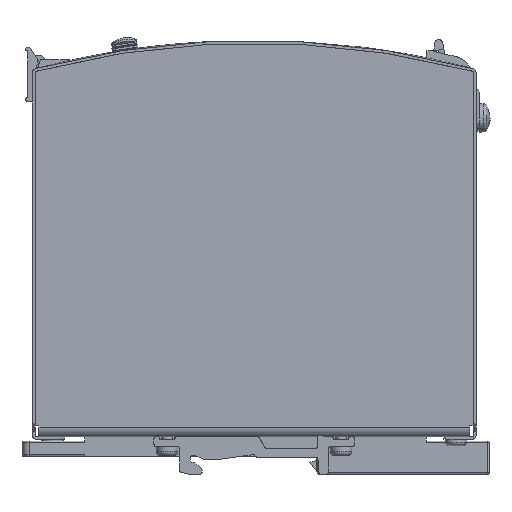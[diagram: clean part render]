
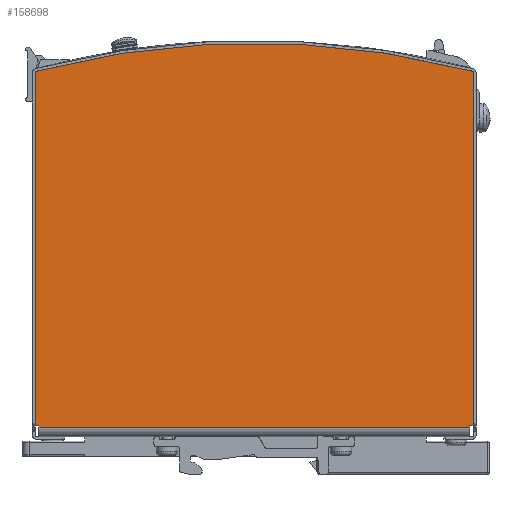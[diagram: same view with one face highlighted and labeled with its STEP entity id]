
A CAD part, front view. The second image highlights one B-rep face of the part: STEP entity #158698.
In plain terms, the highlighted planar face has unit normal (0, -1, 0).
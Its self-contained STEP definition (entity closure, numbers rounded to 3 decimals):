
#158066=CARTESIAN_POINT('',(60.15,-20.,3.));
#158067=VERTEX_POINT('',#158066);
#158074=CARTESIAN_POINT('',(60.15,-20.0,2.5));
#158075=VERTEX_POINT('',#158074);
#158076=CARTESIAN_POINT('',(60.15,-20.0,3.));
#158077=DIRECTION('',(0.0,0.0,-1.0));
#158078=VECTOR('',#158077,0.5);
#158079=LINE('',#158076,#158078);
#158080=EDGE_CURVE('',#158067,#158075,#158079,.T.);
#158223=CARTESIAN_POINT('',(-60.15,-20.0,2.5));
#158224=VERTEX_POINT('',#158223);
#158234=CARTESIAN_POINT('',(-60.15,-20.,3.));
#158235=VERTEX_POINT('',#158234);
#158236=CARTESIAN_POINT('',(-60.15,-20.0,2.5));
#158237=DIRECTION('',(0.0,0.0,1.0));
#158238=VECTOR('',#158237,0.5);
#158239=LINE('',#158236,#158238);
#158240=EDGE_CURVE('',#158224,#158235,#158239,.T.);
#158574=CARTESIAN_POINT('',(61.15,-20.,3.));
#158575=VERTEX_POINT('',#158574);
#158582=CARTESIAN_POINT('',(61.15,-20.,3.));
#158583=DIRECTION('',(-1.0,0.0,0.0));
#158584=VECTOR('',#158583,1.0);
#158585=LINE('',#158582,#158584);
#158586=EDGE_CURVE('',#158575,#158067,#158585,.T.);
#158598=CARTESIAN_POINT('',(60.15,-20.0,2.5));
#158599=DIRECTION('',(-1.0,0.0,0.0));
#158600=VECTOR('',#158599,120.3);
#158601=LINE('',#158598,#158600);
#158602=EDGE_CURVE('',#158075,#158224,#158601,.T.);
#158656=CARTESIAN_POINT('',(61.15,-20.0,1.5));
#158657=DIRECTION('',(0.0,1.0,0.0));
#158658=DIRECTION('',(0.0,0.0,1.0));
#158659=AXIS2_PLACEMENT_3D('',#158656,#158657,#158658);
#158660=PLANE('',#158659);
#158661=ORIENTED_EDGE('',*,*,#158586,.F.);
#158662=CARTESIAN_POINT('',(61.15,-20.,102.079));
#158663=VERTEX_POINT('',#158662);
#158664=CARTESIAN_POINT('',(61.15,-20.,3.));
#158665=DIRECTION('',(0.0,0.0,1.0));
#158666=VECTOR('',#158665,99.079);
#158667=LINE('',#158664,#158666);
#158668=EDGE_CURVE('',#158575,#158663,#158667,.T.);
#158669=ORIENTED_EDGE('',*,*,#158668,.T.);
#158670=CARTESIAN_POINT('',(-61.15,-20.,102.079));
#158671=VERTEX_POINT('',#158670);
#158672=CARTESIAN_POINT('',(0.,-20.,-130.0));
#158673=DIRECTION('',(0.0,1.0,0.0));
#158674=DIRECTION('',(0.0,0.0,-1.0));
#158675=AXIS2_PLACEMENT_3D('',#158672,#158673,#158674);
#158676=CIRCLE('',#158675,240.0);
#158677=EDGE_CURVE('',#158671,#158663,#158676,.T.);
#158678=ORIENTED_EDGE('',*,*,#158677,.F.);
#158679=CARTESIAN_POINT('',(-61.15,-20.,3.));
#158680=VERTEX_POINT('',#158679);
#158681=CARTESIAN_POINT('',(-61.15,-20.,102.079));
#158682=DIRECTION('',(0.0,0.0,-1.0));
#158683=VECTOR('',#158682,99.079);
#158684=LINE('',#158681,#158683);
#158685=EDGE_CURVE('',#158671,#158680,#158684,.T.);
#158686=ORIENTED_EDGE('',*,*,#158685,.T.);
#158687=CARTESIAN_POINT('',(-61.15,-20.,3.));
#158688=DIRECTION('',(1.0,0.0,0.0));
#158689=VECTOR('',#158688,1.);
#158690=LINE('',#158687,#158689);
#158691=EDGE_CURVE('',#158680,#158235,#158690,.T.);
#158692=ORIENTED_EDGE('',*,*,#158691,.T.);
#158693=ORIENTED_EDGE('',*,*,#158240,.F.);
#158694=ORIENTED_EDGE('',*,*,#158602,.F.);
#158695=ORIENTED_EDGE('',*,*,#158080,.F.);
#158696=EDGE_LOOP('',(#158661,#158669,#158678,#158686,#158692,#158693,#158694,#158695));
#158697=FACE_OUTER_BOUND('',#158696,.T.);
#158698=ADVANCED_FACE('',(#158697),#158660,.F.);
